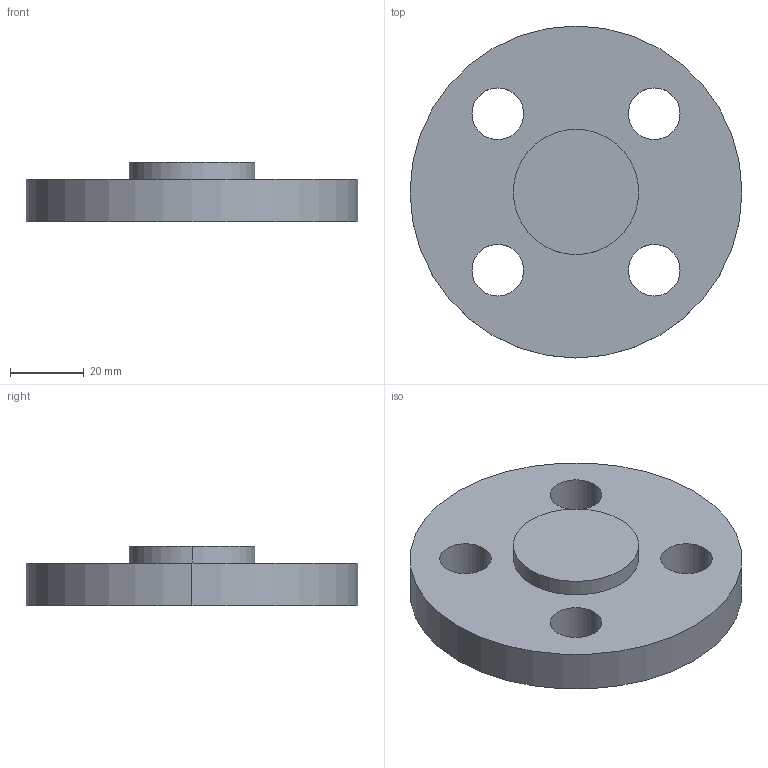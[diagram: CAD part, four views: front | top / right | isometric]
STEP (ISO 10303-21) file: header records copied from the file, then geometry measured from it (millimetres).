
FILE_DESCRIPTION (( 'STEP AP214' ), '1' );
FILE_NAME ('PN40 DN10 Type 05 - Type E Face.STEP', '2018-12-29T05:14:32', ( '' ), ( '' ), 'SwSTEP 2.0', 'SolidWorks 2019', '' );
FILE_SCHEMA (( 'AUTOMOTIVE_DESIGN' ));
Length unit declared in the file: millimetre
Products named in the file (1): PN40 DN10 Type 05 - Type E Face
Bounding box: 90 x 90 x 16 mm (x, y, z)
Volume: 70164.3 mm3; surface area: 17247.3 mm2
Topology: 1 solids, 1 shells, 15 faces, 36 edges, 24 vertices
Faces by surface type: cylinder 12, plane 3
Entity records: 504 total; most frequent: DIRECTION 92, CARTESIAN_POINT 76, ORIENTED_EDGE 72, AXIS2_PLACEMENT_3D 40, EDGE_CURVE 36, CIRCLE 24, EDGE_LOOP 24, VERTEX_POINT 24
